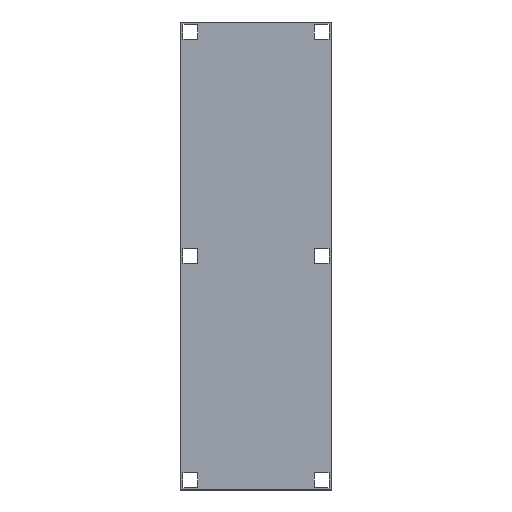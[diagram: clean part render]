
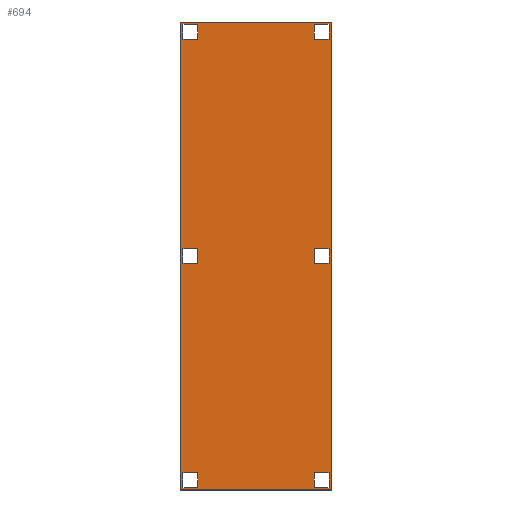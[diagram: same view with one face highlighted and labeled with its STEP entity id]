
A CAD part, top view. The second image highlights one B-rep face of the part: STEP entity #694.
In plain terms, the highlighted planar face has unit normal (0, 0, 1).
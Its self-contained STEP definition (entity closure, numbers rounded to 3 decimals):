
#76=FACE_BOUND('',#147,.T.);
#77=FACE_BOUND('',#148,.T.);
#78=FACE_BOUND('',#149,.T.);
#79=FACE_BOUND('',#150,.T.);
#80=FACE_BOUND('',#151,.T.);
#81=FACE_BOUND('',#152,.T.);
#116=FACE_OUTER_BOUND('',#146,.T.);
#146=EDGE_LOOP('',(#580,#581,#582,#583));
#147=EDGE_LOOP('',(#584,#585,#586,#587));
#148=EDGE_LOOP('',(#588,#589,#590,#591));
#149=EDGE_LOOP('',(#592,#593,#594,#595));
#150=EDGE_LOOP('',(#596,#597,#598,#599));
#151=EDGE_LOOP('',(#600,#601,#602,#603));
#152=EDGE_LOOP('',(#604,#605,#606,#607));
#160=LINE('',#896,#244);
#164=LINE('',#904,#248);
#167=LINE('',#910,#251);
#170=LINE('',#915,#254);
#172=LINE('',#920,#256);
#176=LINE('',#928,#260);
#179=LINE('',#934,#263);
#182=LINE('',#939,#266);
#184=LINE('',#944,#268);
#188=LINE('',#952,#272);
#191=LINE('',#958,#275);
#194=LINE('',#963,#278);
#196=LINE('',#968,#280);
#200=LINE('',#976,#284);
#203=LINE('',#982,#287);
#206=LINE('',#987,#290);
#208=LINE('',#992,#292);
#212=LINE('',#1000,#296);
#215=LINE('',#1006,#299);
#218=LINE('',#1011,#302);
#220=LINE('',#1016,#304);
#224=LINE('',#1024,#308);
#227=LINE('',#1030,#311);
#230=LINE('',#1035,#314);
#232=LINE('',#1040,#316);
#236=LINE('',#1048,#320);
#239=LINE('',#1054,#323);
#242=LINE('',#1059,#326);
#244=VECTOR('',#750,10.);
#248=VECTOR('',#756,10.);
#251=VECTOR('',#761,10.);
#254=VECTOR('',#766,10.);
#256=VECTOR('',#770,10.);
#260=VECTOR('',#776,10.);
#263=VECTOR('',#781,10.);
#266=VECTOR('',#786,10.);
#268=VECTOR('',#790,10.);
#272=VECTOR('',#796,10.);
#275=VECTOR('',#801,10.);
#278=VECTOR('',#806,10.);
#280=VECTOR('',#810,10.);
#284=VECTOR('',#816,10.);
#287=VECTOR('',#821,10.);
#290=VECTOR('',#826,10.);
#292=VECTOR('',#830,10.);
#296=VECTOR('',#836,10.);
#299=VECTOR('',#841,10.);
#302=VECTOR('',#846,10.);
#304=VECTOR('',#850,10.);
#308=VECTOR('',#856,10.);
#311=VECTOR('',#861,10.);
#314=VECTOR('',#866,10.);
#316=VECTOR('',#870,10.);
#320=VECTOR('',#876,10.);
#323=VECTOR('',#881,10.);
#326=VECTOR('',#886,10.);
#328=VERTEX_POINT('',#894);
#329=VERTEX_POINT('',#895);
#332=VERTEX_POINT('',#903);
#334=VERTEX_POINT('',#909);
#336=VERTEX_POINT('',#918);
#337=VERTEX_POINT('',#919);
#340=VERTEX_POINT('',#927);
#342=VERTEX_POINT('',#933);
#344=VERTEX_POINT('',#942);
#345=VERTEX_POINT('',#943);
#348=VERTEX_POINT('',#951);
#350=VERTEX_POINT('',#957);
#352=VERTEX_POINT('',#966);
#353=VERTEX_POINT('',#967);
#356=VERTEX_POINT('',#975);
#358=VERTEX_POINT('',#981);
#360=VERTEX_POINT('',#990);
#361=VERTEX_POINT('',#991);
#364=VERTEX_POINT('',#999);
#366=VERTEX_POINT('',#1005);
#368=VERTEX_POINT('',#1014);
#369=VERTEX_POINT('',#1015);
#372=VERTEX_POINT('',#1023);
#374=VERTEX_POINT('',#1029);
#376=VERTEX_POINT('',#1038);
#377=VERTEX_POINT('',#1039);
#380=VERTEX_POINT('',#1047);
#382=VERTEX_POINT('',#1053);
#384=EDGE_CURVE('',#328,#329,#160,.T.);
#388=EDGE_CURVE('',#329,#332,#164,.T.);
#391=EDGE_CURVE('',#332,#334,#167,.T.);
#394=EDGE_CURVE('',#334,#328,#170,.T.);
#396=EDGE_CURVE('',#336,#337,#172,.T.);
#400=EDGE_CURVE('',#337,#340,#176,.T.);
#403=EDGE_CURVE('',#340,#342,#179,.T.);
#406=EDGE_CURVE('',#342,#336,#182,.T.);
#408=EDGE_CURVE('',#344,#345,#184,.T.);
#412=EDGE_CURVE('',#345,#348,#188,.T.);
#415=EDGE_CURVE('',#348,#350,#191,.T.);
#418=EDGE_CURVE('',#350,#344,#194,.T.);
#420=EDGE_CURVE('',#352,#353,#196,.T.);
#424=EDGE_CURVE('',#353,#356,#200,.T.);
#427=EDGE_CURVE('',#356,#358,#203,.T.);
#430=EDGE_CURVE('',#358,#352,#206,.T.);
#432=EDGE_CURVE('',#360,#361,#208,.T.);
#436=EDGE_CURVE('',#361,#364,#212,.T.);
#439=EDGE_CURVE('',#364,#366,#215,.T.);
#442=EDGE_CURVE('',#366,#360,#218,.T.);
#444=EDGE_CURVE('',#368,#369,#220,.T.);
#448=EDGE_CURVE('',#369,#372,#224,.T.);
#451=EDGE_CURVE('',#372,#374,#227,.T.);
#454=EDGE_CURVE('',#374,#368,#230,.T.);
#456=EDGE_CURVE('',#376,#377,#232,.T.);
#460=EDGE_CURVE('',#377,#380,#236,.T.);
#463=EDGE_CURVE('',#380,#382,#239,.T.);
#466=EDGE_CURVE('',#382,#376,#242,.T.);
#580=ORIENTED_EDGE('',*,*,#466,.T.);
#581=ORIENTED_EDGE('',*,*,#456,.T.);
#582=ORIENTED_EDGE('',*,*,#460,.T.);
#583=ORIENTED_EDGE('',*,*,#463,.T.);
#584=ORIENTED_EDGE('',*,*,#454,.T.);
#585=ORIENTED_EDGE('',*,*,#444,.T.);
#586=ORIENTED_EDGE('',*,*,#448,.T.);
#587=ORIENTED_EDGE('',*,*,#451,.T.);
#588=ORIENTED_EDGE('',*,*,#442,.T.);
#589=ORIENTED_EDGE('',*,*,#432,.T.);
#590=ORIENTED_EDGE('',*,*,#436,.T.);
#591=ORIENTED_EDGE('',*,*,#439,.T.);
#592=ORIENTED_EDGE('',*,*,#430,.T.);
#593=ORIENTED_EDGE('',*,*,#420,.T.);
#594=ORIENTED_EDGE('',*,*,#424,.T.);
#595=ORIENTED_EDGE('',*,*,#427,.T.);
#596=ORIENTED_EDGE('',*,*,#418,.T.);
#597=ORIENTED_EDGE('',*,*,#408,.T.);
#598=ORIENTED_EDGE('',*,*,#412,.T.);
#599=ORIENTED_EDGE('',*,*,#415,.T.);
#600=ORIENTED_EDGE('',*,*,#406,.T.);
#601=ORIENTED_EDGE('',*,*,#396,.T.);
#602=ORIENTED_EDGE('',*,*,#400,.T.);
#603=ORIENTED_EDGE('',*,*,#403,.T.);
#604=ORIENTED_EDGE('',*,*,#394,.T.);
#605=ORIENTED_EDGE('',*,*,#384,.T.);
#606=ORIENTED_EDGE('',*,*,#388,.T.);
#607=ORIENTED_EDGE('',*,*,#391,.T.);
#664=PLANE('',#744);
#694=ADVANCED_FACE('',(#116,#76,#77,#78,#79,#80,#81),#664,.T.);
#744=AXIS2_PLACEMENT_3D('',#1061,#888,#889);
#750=DIRECTION('',(0.,-1.,0.));
#756=DIRECTION('',(-1.,0.,0.));
#761=DIRECTION('',(0.,1.,0.));
#766=DIRECTION('',(1.,0.,0.));
#770=DIRECTION('',(0.,-1.,0.));
#776=DIRECTION('',(-1.,0.,0.));
#781=DIRECTION('',(0.,1.,0.));
#786=DIRECTION('',(1.,0.,0.));
#790=DIRECTION('',(0.,-1.,0.));
#796=DIRECTION('',(-1.,0.,0.));
#801=DIRECTION('',(0.,1.,0.));
#806=DIRECTION('',(1.,0.,0.));
#810=DIRECTION('',(0.,-1.,0.));
#816=DIRECTION('',(-1.,0.,0.));
#821=DIRECTION('',(0.,1.,0.));
#826=DIRECTION('',(1.,0.,0.));
#830=DIRECTION('',(0.,-1.,0.));
#836=DIRECTION('',(-1.,0.,0.));
#841=DIRECTION('',(0.,1.,0.));
#846=DIRECTION('',(1.,0.,0.));
#850=DIRECTION('',(0.,-1.,0.));
#856=DIRECTION('',(-1.,0.,0.));
#861=DIRECTION('',(0.,1.,0.));
#866=DIRECTION('',(1.,0.,0.));
#870=DIRECTION('',(0.,-1.,0.));
#876=DIRECTION('',(1.,0.,0.));
#881=DIRECTION('',(0.,1.,0.));
#886=DIRECTION('',(-1.,0.,0.));
#888=DIRECTION('center_axis',(0.,0.,1.));
#889=DIRECTION('ref_axis',(1.,0.,0.));
#894=CARTESIAN_POINT('',(-46.7,186.,0.));
#895=CARTESIAN_POINT('',(-46.7,174.,0.));
#896=CARTESIAN_POINT('',(-46.7,186.,0.));
#903=CARTESIAN_POINT('',(-58.7,174.,0.));
#904=CARTESIAN_POINT('',(-46.7,174.,0.));
#909=CARTESIAN_POINT('',(-58.7,186.,0.));
#910=CARTESIAN_POINT('',(-58.7,174.,0.));
#915=CARTESIAN_POINT('',(-58.7,186.,0.));
#918=CARTESIAN_POINT('',(-46.7,6.,0.));
#919=CARTESIAN_POINT('',(-46.7,-6.,0.));
#920=CARTESIAN_POINT('',(-46.7,6.,0.));
#927=CARTESIAN_POINT('',(-58.7,-6.,0.));
#928=CARTESIAN_POINT('',(-46.7,-6.,0.));
#933=CARTESIAN_POINT('',(-58.7,6.,0.));
#934=CARTESIAN_POINT('',(-58.7,-6.,0.));
#939=CARTESIAN_POINT('',(-58.7,6.,0.));
#942=CARTESIAN_POINT('',(58.7,6.,0.));
#943=CARTESIAN_POINT('',(58.7,-6.,0.));
#944=CARTESIAN_POINT('',(58.7,6.,0.));
#951=CARTESIAN_POINT('',(46.7,-6.,0.));
#952=CARTESIAN_POINT('',(58.7,-6.,0.));
#957=CARTESIAN_POINT('',(46.7,6.,0.));
#958=CARTESIAN_POINT('',(46.7,-6.,0.));
#963=CARTESIAN_POINT('',(46.7,6.,0.));
#966=CARTESIAN_POINT('',(58.7,186.,0.));
#967=CARTESIAN_POINT('',(58.7,174.,0.));
#968=CARTESIAN_POINT('',(58.7,186.,0.));
#975=CARTESIAN_POINT('',(46.7,174.,0.));
#976=CARTESIAN_POINT('',(58.7,174.,0.));
#981=CARTESIAN_POINT('',(46.7,186.,0.));
#982=CARTESIAN_POINT('',(46.7,174.,0.));
#987=CARTESIAN_POINT('',(46.7,186.,0.));
#990=CARTESIAN_POINT('',(-46.7,-174.,0.));
#991=CARTESIAN_POINT('',(-46.7,-186.,0.));
#992=CARTESIAN_POINT('',(-46.7,-174.,0.));
#999=CARTESIAN_POINT('',(-58.7,-186.,0.));
#1000=CARTESIAN_POINT('',(-46.7,-186.,0.));
#1005=CARTESIAN_POINT('',(-58.7,-174.,0.));
#1006=CARTESIAN_POINT('',(-58.7,-186.,0.));
#1011=CARTESIAN_POINT('',(-58.7,-174.,0.));
#1014=CARTESIAN_POINT('',(58.7,-174.,0.));
#1015=CARTESIAN_POINT('',(58.7,-186.,0.));
#1016=CARTESIAN_POINT('',(58.7,-174.,0.));
#1023=CARTESIAN_POINT('',(46.7,-186.,0.));
#1024=CARTESIAN_POINT('',(58.7,-186.,0.));
#1029=CARTESIAN_POINT('',(46.7,-174.,0.));
#1030=CARTESIAN_POINT('',(46.7,-186.,0.));
#1035=CARTESIAN_POINT('',(46.7,-174.,0.));
#1038=CARTESIAN_POINT('',(-60.7,188.,0.));
#1039=CARTESIAN_POINT('',(-60.7,-188.,0.));
#1040=CARTESIAN_POINT('',(-60.7,188.,0.));
#1047=CARTESIAN_POINT('',(60.7,-188.,0.));
#1048=CARTESIAN_POINT('',(-60.7,-188.,0.));
#1053=CARTESIAN_POINT('',(60.7,188.,0.));
#1054=CARTESIAN_POINT('',(60.7,-188.,0.));
#1059=CARTESIAN_POINT('',(60.7,188.,0.));
#1061=CARTESIAN_POINT('Origin',(0.,0.,
0.));
